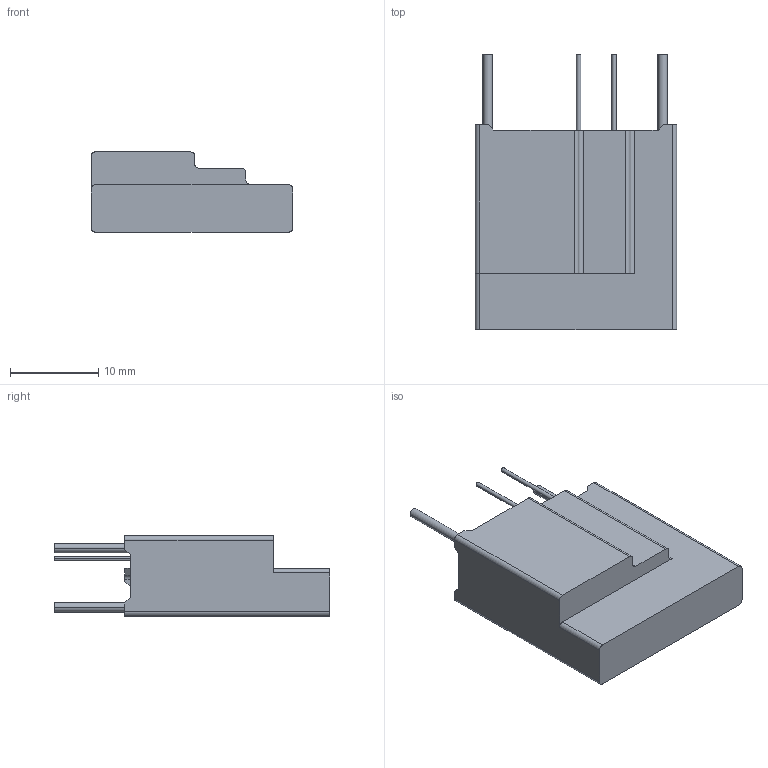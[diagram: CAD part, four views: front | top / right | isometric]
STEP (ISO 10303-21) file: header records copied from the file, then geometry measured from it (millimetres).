
FILE_DESCRIPTION((''),'2;1');
FILE_NAME('20S4201-IT-20200616','2020-06-18T',('set'),(''),'PRO/ENGINEER BY PARAMETRIC TECHNOLOGY CORPORATION, 2012310','PRO/ENGINEER BY PARAMETRIC TECHNOLOGY CORPORATION, 2012310','');
FILE_SCHEMA(('CONFIG_CONTROL_DESIGN','SHAPE_APPEARANCE_LAYERS_GROUPS'));
Length unit declared in the file: millimetre
Products named in the file (1): 20S4201-IT-20200616
Bounding box: 22.8 x 31.2 x 9.1 mm (x, y, z)
Volume: 1272.1 mm3; surface area: 3297.2 mm2
Topology: 1 solids, 2 shells, 107 faces, 295 edges, 196 vertices
Faces by surface type: plane 79, cylinder 28
Entity records: 3439 total; most frequent: CARTESIAN_POINT 598, ORIENTED_EDGE 590, DIRECTION 566, EDGE_CURVE 295, VECTOR 238, LINE 238, VERTEX_POINT 196, AXIS2_PLACEMENT_3D 164
